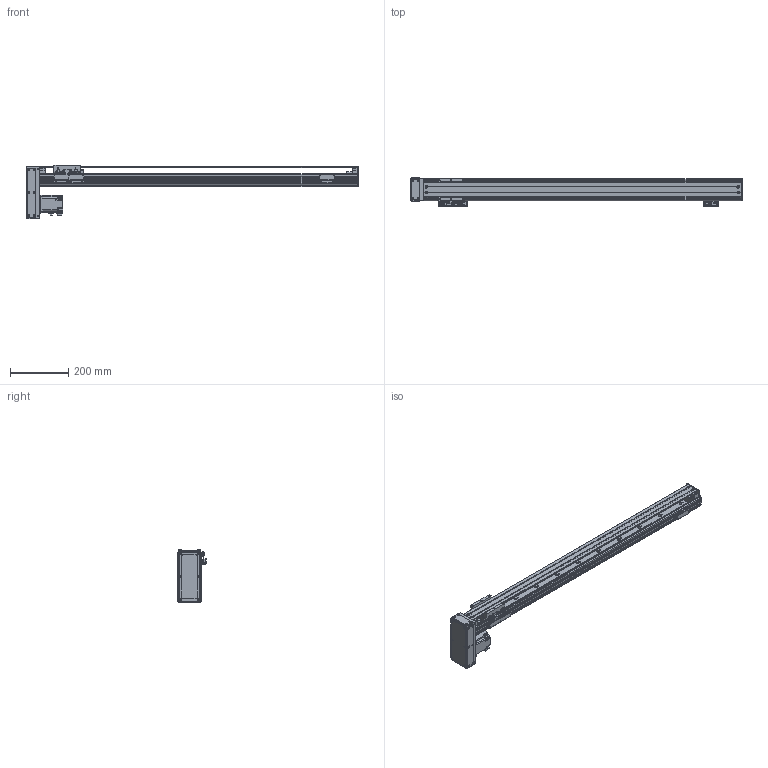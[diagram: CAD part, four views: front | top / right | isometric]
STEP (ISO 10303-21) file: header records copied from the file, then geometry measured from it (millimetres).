
FILE_DESCRIPTION(/* description */ (''),/* implementation_level */ '2;1');
FILE_NAME(/* name */ '\\192.168.0.160\disk1\HAN SHIN Master\B-설계부문\C-표준\B-2024년\BC02-표준도면\+로봇 개선표준도면\표준 승인도 작업 폴더\3D\HG75\HG75병렬\D Type\HG75-D20-N1B-0900-R10.stp',/* time_stamp */ '2024-04-04T13:48:33+09:00',/* author */ ('User'),/* organization */ (''),/* preprocessor_version */ 'ST-DEVELOPER v18.1',/* originating_system */ 'Autodesk Inventor 2022',/* authorisation */ '');
FILE_SCHEMA (('AUTOMOTIVE_DESIGN { 1 0 10303 214 3 1 1 }'));
Length unit declared in the file: millimetre
Products named in the file (25): HG75-D20-N1B-0500-R10 - 간소화; BASE; HR75 FRONT BLOCK; HR75 REAR COVER-TENTION; HR75 TENSION REAR BLOCK; HG3UPCOV001; H 15F_BLOCK; HR65,75 SENSOR DOG; HG90STOPPER - 20L; HG90STOPPER - 27L; MOTOR PLATE-200W(MITSUBISHI); 화살표; hg-kr23_; hsr_ftht_A-M6F_grease_nipple_joint; NIPPLE CAP(신규); M-5HL-4; HR75 W TABLE; LMKE1520 NUT; SENSOR BRK(EE-SX674A); EE_SX674A; HC75-D-BELT COVER; HG75DMOTORPLATE01; HG75DACRYLCOVER001; HG75DACRYLCOVER003; HR75-BELT COVER-COVER2
Assembly tree (32 placements, depth 2):
  HG75-D20-N1B-0500-R10 - 간소화
    BASE
    HR75 FRONT BLOCK
    HR75 REAR COVER-TENTION
    SENSOR BRK(EE-SX674A)  x3
    EE_SX674A  x3
    HR75 TENSION REAR BLOCK
    HG3UPCOV001
    H 15F_BLOCK
    HR65,75 SENSOR DOG
    HG90STOPPER - 20L
    HG90STOPPER - 27L
    MOTOR PLATE-200W(MITSUBISHI)
    화살표  x2
    hg-kr23_
    hsr_ftht_A-M6F_grease_nipple_joint  x2
    NIPPLE CAP(신규)  x2
    M-5HL-4
    HR75 W TABLE
    LMKE1520 NUT
    HC75-D-BELT COVER
    HG75DMOTORPLATE01
    HG75DACRYLCOVER001
    HG75DACRYLCOVER003
    HR75-BELT COVER-COVER2  x2
Bounding box: 1139 x 97 x 182 mm (x, y, z)
Volume: 1891247.6 mm3; surface area: 861700.5 mm2
Topology: 32 solids, 32 shells, 1728 faces, 4578 edges, 3001 vertices
Faces by surface type: plane 835, cylinder 708, cone 141, sphere 24, torus 12, bspline 8
Full cylindrical faces by diameter (mm): 1.8 x1, 2 x6, 2.013 x2, 2.459 x28, 2.5 x2, 3 x6, 3.242 x48, 3.4 x22, 3.5 x6, 4 x6, 4.134 x56, 4.5 x18, 4.917 x5, 5 x31, 5.5 x40, 5.6 x10, 5.8 x4, 5.9 x8, 6 x6, 6.5 x5, 7 x1, 8 x1, 9.5 x36, 14 x1, 15 x3, 17 x1, 20 x1, 25 x2, 28 x1, 32 x2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
Entity records: 47323 total; most frequent: CARTESIAN_POINT 8850, DIRECTION 8016, ORIENTED_EDGE 7462, EDGE_CURVE 3731, AXIS2_PLACEMENT_3D 2916, VERTEX_POINT 2480, LINE 2184, VECTOR 2184
